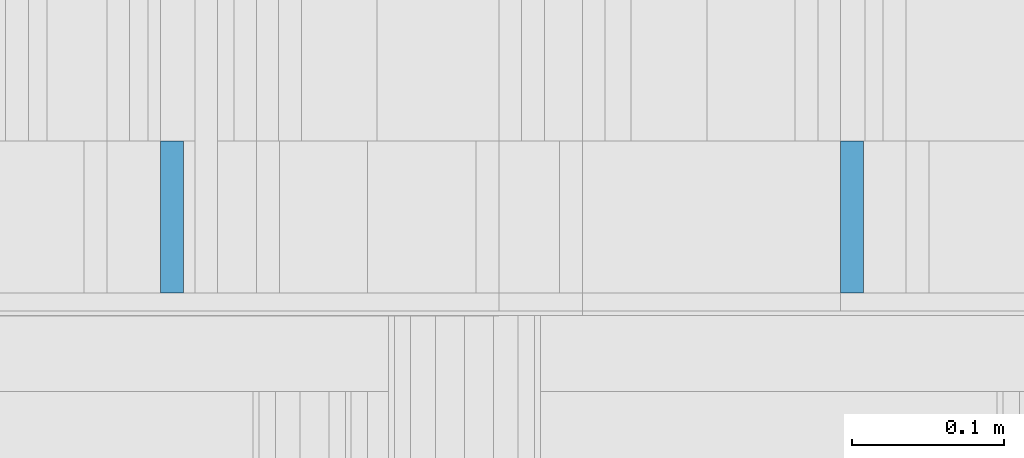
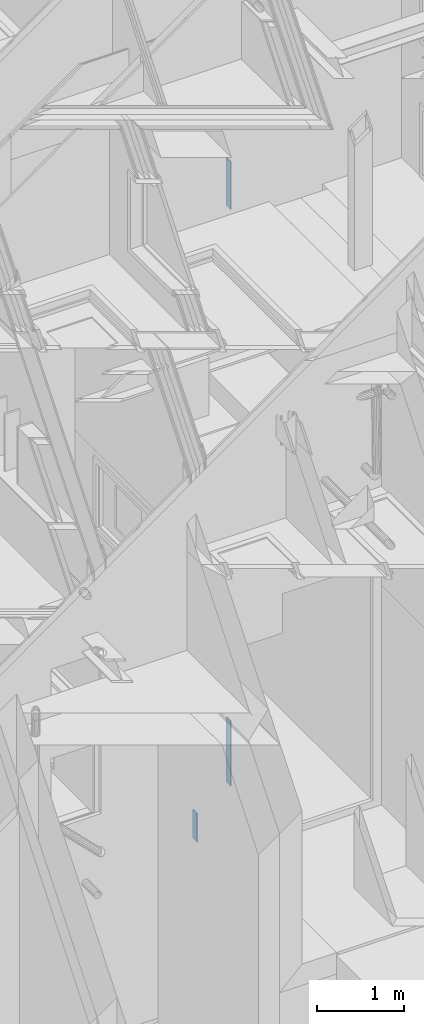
# One storey, part 217 of 583: 4 building element parts, 2 elements without a shape of their own.
"""IFC2X3 building model written with IfcOpenShell, lengths in metres."""

from ifc_helpers import new_model, entity, si_unit, converted_unit, derived_unit, money_unit, direction, frame, frame_2d, origin_with_axes, place, context, subcontext, project, spatial, polyline, rectangle, outline, extrude, material, type_object, element, aggregate, save


model = new_model("IFC2X3")

# Units and contexts
model_context = context("Model", 3, precision=1e-05, world=origin_with_axes(), true_north=direction((0.0, 1.0)))
body_context = subcontext(model_context, "Body", "Model", "MODEL_VIEW", scale=1.0)
ifc_project = project(units=[si_unit("LENGTHUNIT", "METRE"), si_unit("AREAUNIT", "SQUARE_METRE"), si_unit("VOLUMEUNIT", "CUBIC_METRE"), si_unit("ABSORBEDDOSEUNIT", "GRAY"), si_unit("AMOUNTOFSUBSTANCEUNIT", "MOLE"), si_unit("DOSEEQUIVALENTUNIT", "SIEVERT"), si_unit("ELECTRICCAPACITANCEUNIT", "FARAD"), si_unit("ELECTRICCHARGEUNIT", "COULOMB"), si_unit("ELECTRICCONDUCTANCEUNIT", "SIEMENS"), si_unit("ELECTRICCURRENTUNIT", "AMPERE"), si_unit("ELECTRICRESISTANCEUNIT", "OHM"), si_unit("ELECTRICVOLTAGEUNIT", "VOLT"), si_unit("ENERGYUNIT", "JOULE"), si_unit("FORCEUNIT", "NEWTON"), si_unit("FREQUENCYUNIT", "HERTZ"), si_unit("ILLUMINANCEUNIT", "LUX"), si_unit("INDUCTANCEUNIT", "HENRY"), si_unit("LUMINOUSFLUXUNIT", "LUMEN"), si_unit("LUMINOUSINTENSITYUNIT", "CANDELA"), si_unit("MAGNETICFLUXDENSITYUNIT", "TESLA"), si_unit("MAGNETICFLUXUNIT", "WEBER"), si_unit("MASSUNIT", "GRAM"), converted_unit("PLANEANGLEUNIT", "degree", entity("IfcReal", 0.0174532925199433), si_unit("PLANEANGLEUNIT", "RADIAN"), dimensions=[0, 0, 0, 0, 0, 0, 0]), si_unit("POWERUNIT", "WATT"), si_unit("PRESSUREUNIT", "PASCAL"), si_unit("RADIOACTIVITYUNIT", "BECQUEREL"), si_unit("SOLIDANGLEUNIT", "STERADIAN"), si_unit("THERMODYNAMICTEMPERATUREUNIT", "KELVIN"), si_unit("TIMEUNIT", "SECOND"), derived_unit("ACCELERATIONUNIT", [(si_unit("LENGTHUNIT", "METRE"), 1), (si_unit("TIMEUNIT", "SECOND"), -2)]), derived_unit("ANGULARVELOCITYUNIT", [(converted_unit("PLANEANGLEUNIT", "degree", entity("IfcReal", 0.0174532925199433), si_unit("PLANEANGLEUNIT", "RADIAN"), dimensions=[0, 0, 0, 0, 0, 0, 0]), 1), (si_unit("TIMEUNIT", "SECOND"), -1)]), derived_unit("CURVATUREUNIT", [(converted_unit("PLANEANGLEUNIT", "degree", entity("IfcReal", 0.0174532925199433), si_unit("PLANEANGLEUNIT", "RADIAN"), dimensions=[0, 0, 0, 0, 0, 0, 0]), 1), (si_unit("LENGTHUNIT", "METRE"), -1)]), derived_unit("DYNAMICVISCOSITYUNIT", [(si_unit("PRESSUREUNIT", "PASCAL"), 1), (si_unit("TIMEUNIT", "SECOND"), 1)]), derived_unit("HEATFLUXDENSITYUNIT", [(si_unit("POWERUNIT", "WATT"), 1), (si_unit("LENGTHUNIT", "METRE"), -2)]), derived_unit("HEATINGVALUEUNIT", [(si_unit("ENERGYUNIT", "JOULE"), 1), (si_unit("MASSUNIT", "GRAM"), -1)]), derived_unit("INTEGERCOUNTRATEUNIT", [(si_unit("TIMEUNIT", "SECOND"), -1)]), derived_unit("IONCONCENTRATIONUNIT", [(si_unit("MASSUNIT", "GRAM"), 1), (si_unit("VOLUMEUNIT", "CUBIC_METRE"), -1)]), derived_unit("ISOTHERMALMOISTURECAPACITYUNIT", [(si_unit("VOLUMEUNIT", "CUBIC_METRE"), 1), (si_unit("MASSUNIT", "GRAM"), -1)]), derived_unit("KINEMATICVISCOSITYUNIT", [(si_unit("AREAUNIT", "SQUARE_METRE"), 1), (si_unit("TIMEUNIT", "SECOND"), -1)]), derived_unit("LINEARFORCEUNIT", [(si_unit("FORCEUNIT", "NEWTON"), 1), (si_unit("LENGTHUNIT", "METRE"), -1)]), derived_unit("LINEARMOMENTUNIT", [(si_unit("FORCEUNIT", "NEWTON"), 1), (si_unit("LENGTHUNIT", "METRE"), -1)]), derived_unit("LINEARSTIFFNESSUNIT", [(si_unit("FORCEUNIT", "NEWTON"), 1), (si_unit("LENGTHUNIT", "METRE"), -1)]), derived_unit("LINEARVELOCITYUNIT", [(si_unit("LENGTHUNIT", "METRE"), 1), (si_unit("TIMEUNIT", "SECOND"), -1)]), derived_unit("LUMINOUSINTENSITYDISTRIBUTIONUNIT", [(si_unit("LUMINOUSINTENSITYUNIT", "CANDELA"), 1), (si_unit("LUMINOUSFLUXUNIT", "LUMEN"), -1)]), derived_unit("MASSDENSITYUNIT", [(si_unit("MASSUNIT", "GRAM"), 1), (si_unit("VOLUMEUNIT", "CUBIC_METRE"), -1)]), derived_unit("MASSFLOWRATEUNIT", [(si_unit("MASSUNIT", "GRAM"), 1), (si_unit("TIMEUNIT", "SECOND"), -1)]), derived_unit("MASSPERLENGTHUNIT", [(si_unit("MASSUNIT", "GRAM"), 1), (si_unit("LENGTHUNIT", "METRE"), -1)]), derived_unit("MODULUSOFELASTICITYUNIT", [(si_unit("FORCEUNIT", "NEWTON"), 1), (si_unit("AREAUNIT", "SQUARE_METRE"), -1)]), derived_unit("MODULUSOFLINEARSUBGRADEREACTIONUNIT", [(si_unit("FORCEUNIT", "NEWTON"), 1), (si_unit("LENGTHUNIT", "METRE"), -2)]), derived_unit("MODULUSOFROTATIONALSUBGRADEREACTIONUNIT", [(si_unit("FORCEUNIT", "NEWTON"), 1), (si_unit("LENGTHUNIT", "METRE"), 1)]), derived_unit("MODULUSOFSUBGRADEREACTIONUNIT", [(si_unit("FORCEUNIT", "NEWTON"), 1), (si_unit("VOLUMEUNIT", "CUBIC_METRE"), -1)]), derived_unit("MOISTUREDIFFUSIVITYUNIT", [(si_unit("VOLUMEUNIT", "CUBIC_METRE"), 1), (si_unit("TIMEUNIT", "SECOND"), -1)]), derived_unit("MOLECULARWEIGHTUNIT", [(si_unit("MASSUNIT", "GRAM"), 1), (si_unit("AMOUNTOFSUBSTANCEUNIT", "MOLE"), -1)]), derived_unit("PLANARFORCEUNIT", [(si_unit("FORCEUNIT", "NEWTON"), 1), (si_unit("LENGTHUNIT", "METRE"), -2)]), derived_unit("ROTATIONALFREQUENCYUNIT", [(si_unit("TIMEUNIT", "SECOND"), -1)]), derived_unit("ROTATIONALMASSUNIT", [(si_unit("MASSUNIT", "GRAM"), 1), (si_unit("LENGTHUNIT", "METRE"), 2)]), derived_unit("ROTATIONALSTIFFNESSUNIT", [(si_unit("FORCEUNIT", "NEWTON"), 1), (si_unit("LENGTHUNIT", "METRE"), 1), (converted_unit("PLANEANGLEUNIT", "degree", entity("IfcReal", 0.0174532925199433), si_unit("PLANEANGLEUNIT", "RADIAN"), dimensions=[0, 0, 0, 0, 0, 0, 0]), -1)]), derived_unit("SECTIONAREAINTEGRALUNIT", [(si_unit("LENGTHUNIT", "METRE"), 5)]), derived_unit("SECTIONMODULUSUNIT", [(si_unit("LENGTHUNIT", "METRE"), 3)]), derived_unit("SHEARMODULUSUNIT", [(si_unit("FORCEUNIT", "NEWTON"), 1), (si_unit("AREAUNIT", "SQUARE_METRE"), -1)]), derived_unit("SOUNDPOWERUNIT", [(si_unit("ENERGYUNIT", "JOULE"), 1), (si_unit("TIMEUNIT", "SECOND"), -1)]), derived_unit("SPECIFICHEATCAPACITYUNIT", [(si_unit("FORCEUNIT", "NEWTON"), 1), (si_unit("MASSUNIT", "GRAM"), -1), (si_unit("THERMODYNAMICTEMPERATUREUNIT", "KELVIN"), -1)]), derived_unit("TEMPERATUREGRADIENTUNIT", [(si_unit("THERMODYNAMICTEMPERATUREUNIT", "KELVIN"), 1), (si_unit("LENGTHUNIT", "METRE"), -1)]), derived_unit("THERMALADMITTANCEUNIT", [(si_unit("POWERUNIT", "WATT"), 1), (si_unit("AREAUNIT", "SQUARE_METRE"), -1), (si_unit("THERMODYNAMICTEMPERATUREUNIT", "KELVIN"), -1)]), derived_unit("THERMALCONDUCTANCEUNIT", [(si_unit("POWERUNIT", "WATT"), 1), (si_unit("LENGTHUNIT", "METRE"), -1), (si_unit("THERMODYNAMICTEMPERATUREUNIT", "KELVIN"), -1)]), derived_unit("THERMALEXPANSIONCOEFFICIENTUNIT", [(si_unit("THERMODYNAMICTEMPERATUREUNIT", "KELVIN"), -1)]), derived_unit("THERMALRESISTANCEUNIT", [(si_unit("AREAUNIT", "SQUARE_METRE"), 1), (si_unit("POWERUNIT", "WATT"), -1)]), derived_unit("THERMALTRANSMITTANCEUNIT", [(si_unit("POWERUNIT", "WATT"), 1), (si_unit("AREAUNIT", "SQUARE_METRE"), -1), (si_unit("THERMODYNAMICTEMPERATUREUNIT", "KELVIN"), -1)]), derived_unit("TORQUEUNIT", [(si_unit("FORCEUNIT", "NEWTON"), 1), (si_unit("LENGTHUNIT", "METRE"), 1)]), derived_unit("VAPORPERMEABILITYUNIT", [(si_unit("MASSUNIT", "GRAM"), 1), (si_unit("TIMEUNIT", "SECOND"), -1)]), derived_unit("VOLUMETRICFLOWRATEUNIT", [(si_unit("VOLUMEUNIT", "CUBIC_METRE"), 1), (si_unit("TIMEUNIT", "SECOND"), -1)]), derived_unit("WARPINGCONSTANTUNIT", [(si_unit("LENGTHUNIT", "METRE"), 6)]), derived_unit("WARPINGMOMENTUNIT", [(si_unit("FORCEUNIT", "NEWTON"), 1), (si_unit("LENGTHUNIT", "METRE"), 2)]), money_unit("GBP")], contexts=[model_context])

# Site, building, storey
site_placement = place(None, origin_with_axes())
site = spatial("IfcSite", under=ifc_project, at=site_placement, Name="Site", CompositionType="ELEMENT")
building_placement = place(site_placement, origin_with_axes())
building = spatial("IfcBuilding", under=site, at=building_placement, Name="Building01", CompositionType="ELEMENT")
storey_placement = place(building_placement, frame((0.0, 0.0, 20.78), z_axis=(0.0, 0.0, 1.0), x_axis=(1.0, 0.0, 0.0)))
storey = spatial("IfcBuildingStorey", under=building, at=storey_placement, Name="RL", CompositionType="ELEMENT", Elevation=20.78)

# Wall, building element part
wall_type_1 = type_object("IfcWallType", Name="SHE_A-Walls_Type04c_RiserWall_102mm_tall", PredefinedType="NOTDEFINED")
wall_1_placement = place(storey_placement, frame((8.372405, 8.655, -12.122), z_axis=(0.0, 1.0, 0.0), x_axis=(0.0, 0.0, 1.0)))
wall_1 = element("IfcWall", 1, at=wall_1_placement, inside=storey, type_object=wall_type_1, Name="4C", ObjectType="SHE_A-Walls_Type04c_RiserWall_102mm_tall")
ifc_material = material(Name="A_BSUK_Walls_Timber")
building_element_part_1_placement = place(wall_1_placement, origin_with_axes())
building_element_part_1 = element("IfcBuildingElementPart", 2, at=building_element_part_1_placement, material=ifc_material, Name="1", context=body_context, shape_type="SweptSolid", body=[
    extrude(outline(polyline([(0.402, 0.015), (-0.015, 0.015), (0.0, 0.0), (0.402, 0.0), (0.402, 0.015)])), origin_with_axes(), (0.0, 0.0, 1.0), 0.1),
])
aggregate(wall_1, [building_element_part_1])

# Wall, building element parts
wall_type_2 = type_object("IfcWallType", Name="SHE_A-Walls_Type03a_BlockworkWall_170mm", PredefinedType="NOTDEFINED")
wall_2_placement = place(storey_placement, frame((8.805, 8.64, -2.795), z_axis=(0.0, 1.0, 0.0), x_axis=(0.0, 0.0, -1.0)))
wall_2 = element("IfcWall", 3, at=wall_2_placement, inside=storey, type_object=wall_type_2, Name="4B", ObjectType="SHE_A-Walls_Type03a_BlockworkWall_170mm")
placement = place(wall_2_placement, origin_with_axes())
building_element_part_2 = element("IfcBuildingElementPart", 4, at=placement, material=ifc_material, Name="5", context=body_context, shape_type="SweptSolid", body=[
    extrude(rectangle(XDim=0.015, YDim=0.015, at=frame_2d((-0.0225, -0.0225), x_axis=(-1.0, 0.0))), frame((0.0, 0.0, 0.015), z_axis=(0.0, 0.0, 1.0), x_axis=(1.0, 0.0, 0.0)), (0.0, 0.0, 1.0), 0.1),
])
building_element_part_3 = element("IfcBuildingElementPart", 5, at=placement, material=ifc_material, Name="9", context=body_context, shape_type="SweptSolid", body=[
    extrude(rectangle(XDim=0.651868, YDim=0.015, at=frame_2d((0.310934, -0.0225), x_axis=(-1.0, 0.0))), frame((0.0, 0.0, 0.015), z_axis=(0.0, 0.0, 1.0), x_axis=(1.0, 0.0, 0.0)), (0.0, 0.0, 1.0), 0.1),
])
building_element_part_4 = element("IfcBuildingElementPart", 6, at=placement, material=ifc_material, Name="10", context=body_context, shape_type="SweptSolid", body=[
    extrude(rectangle(XDim=0.908871, YDim=0.015, at=frame_2d((8.245565, -0.0225), x_axis=(-1.0, 0.0))), frame((0.0, 0.0, 0.015), z_axis=(0.0, 0.0, 1.0), x_axis=(1.0, 0.0, 0.0)), (0.0, 0.0, 1.0), 0.1),
])
aggregate(wall_2, [building_element_part_2, building_element_part_3, building_element_part_4])

save(model, "model.ifc")
